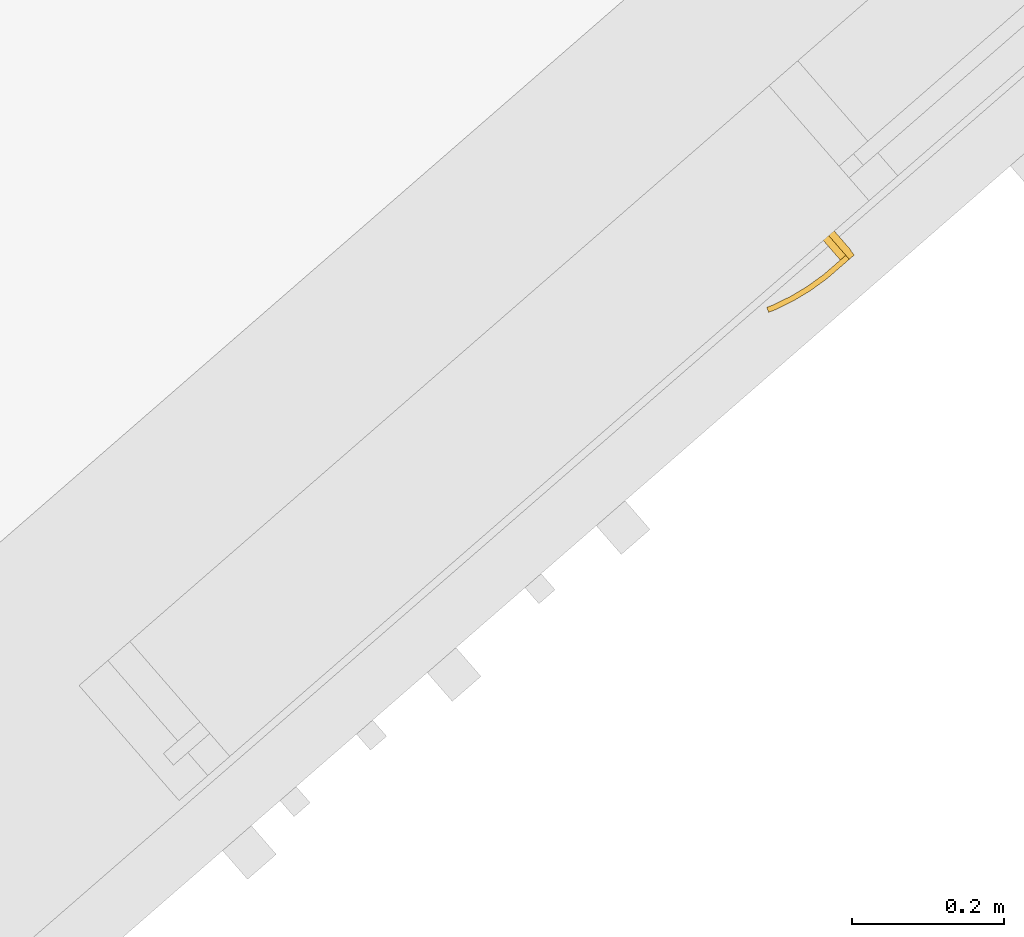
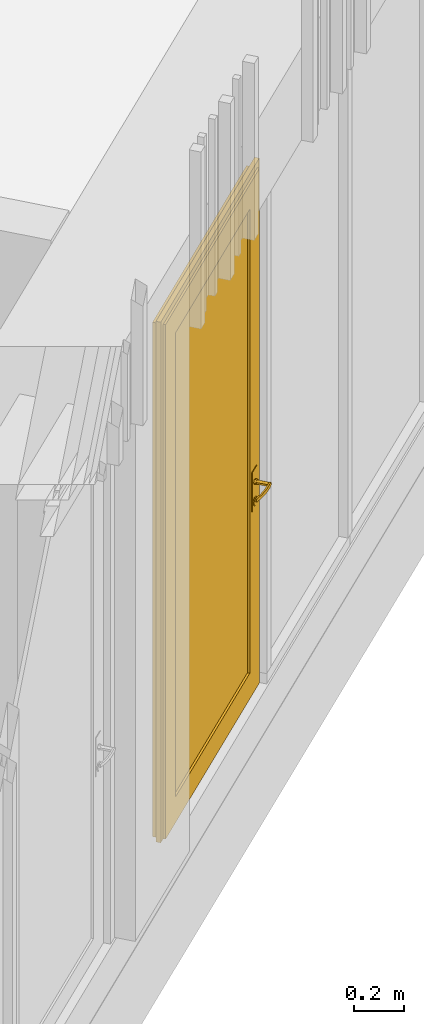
# One storey, part 109 of 124: 1 door, 1 element without a shape of its own.
"""IFC2X3 building model written with IfcOpenShell, lengths in millimetres."""

import ifcopenshell
import ifcopenshell.guid

model = None  # the IFC model being written
_history = None  # IfcOwnerHistory: only IFC2X3 demands one
_inside = {}  # id of a spatial element -> (the spatial element, [elements in it])
_under = {}  # id of a project, library or spatial element -> (it, [spatial elements below it])
_declared = {}  # id of a project -> (the project, [libraries it declares])
_typed = {}  # id of a type object -> (the type object, [elements of that type])
_made_of = {}  # id of a material, layer set ... -> (it, [elements and type objects made of it])


def new_model(schema):
    """Start an empty IFC model of exactly this schema.

    Asked for "IFC4X3", IfcOpenShell would pick the latest addendum, in which some entities
    have other attributes; the version numbers below select the first issue.
    IFC2X3 requires an IfcOwnerHistory on every rooted entity: one is made here for all.
    """
    global model, _history
    if schema == "IFC4X3":
        model = ifcopenshell.file(schema_version=(4, 3, 0, 0))
    else:
        model = ifcopenshell.file(schema=schema)
    _inside.clear()
    _under.clear()
    _declared.clear()
    _typed.clear()
    _made_of.clear()
    _history = None
    if model.schema == "IFC2X3":
        org = make("IfcOrganization", Name="unknown")
        user = make(
            "IfcPersonAndOrganization",
            ThePerson=make("IfcPerson", FamilyName="unknown"),
            TheOrganization=org,
        )
        app = make(
            "IfcApplication",
            ApplicationDeveloper=org,
            Version="unknown",
            ApplicationFullName="unknown",
            ApplicationIdentifier="unknown",
        )
        _history = make(
            "IfcOwnerHistory",
            OwningUser=user,
            OwningApplication=app,
            ChangeAction="ADDED",
            CreationDate=0,
        )
    return model


def make(cls, **values):
    """One entity of the class cls with the attributes given. An attribute that is None is left unset."""
    return model.create_entity(
        cls, **{name: value for name, value in values.items() if value is not None}
    )


def entity(cls, *values):
    """Any entity or typed value of the class cls, its attributes in the order of the schema. None: left unset."""
    e = model.create_entity(cls)
    for i, value in enumerate(values):
        if value is not None:
            e[i] = value
    return e


def rooted(cls, **values):
    """An entity with a GlobalId (a new one), such as an element, a storey or a relation."""
    return make(cls, GlobalId=ifcopenshell.guid.new(), OwnerHistory=_history, **values)


def si_unit(unit_type, name, prefix=None):
    """IfcSIUnit, for example si_unit("LENGTHUNIT", "METRE", prefix="MILLI")."""
    return make("IfcSIUnit", UnitType=unit_type, Prefix=prefix, Name=name)


def converted_unit(unit_type, name, factor, base, dimensions=None, offset=None):
    """IfcConversionBasedUnit, such as the inch: factor (a typed value) times the base unit."""
    return make(
        "IfcConversionBasedUnit"
        if offset is None
        else "IfcConversionBasedUnitWithOffset",
        ConversionOffset=offset,
        Dimensions=None
        if dimensions is None
        else entity("IfcDimensionalExponents", *dimensions),
        UnitType=unit_type,
        Name=name,
        ConversionFactor=make(
            "IfcMeasureWithUnit", ValueComponent=factor, UnitComponent=base
        ),
    )


def derived_unit(unit_type, elements):
    """IfcDerivedUnit: a product of units, each with its exponent."""
    return make(
        "IfcDerivedUnit",
        Elements=[
            make("IfcDerivedUnitElement", Unit=unit, Exponent=power)
            for unit, power in elements
        ],
        UnitType=unit_type,
    )


def money_unit(currency):
    """IfcMonetaryUnit."""
    return make("IfcMonetaryUnit", Currency=currency)


def assignment(units):
    """IfcUnitAssignment: the units of a project."""
    return None if units is None else make("IfcUnitAssignment", Units=units)


def point(xyz):
    """IfcCartesianPoint."""
    return None if xyz is None else make("IfcCartesianPoint", Coordinates=xyz)


def direction(xyz):
    """IfcDirection."""
    return None if xyz is None else make("IfcDirection", DirectionRatios=xyz)


def frame(location, z_axis=None, x_axis=None):
    """IfcAxis2Placement3D, a coordinate frame: its origin and axes. An axis left out is left unset."""
    return make(
        "IfcAxis2Placement3D",
        Location=point(location),
        Axis=direction(z_axis),
        RefDirection=direction(x_axis),
    )


def origin_with_axes():
    """The frame at (0, 0, 0) with the z axis (0, 0, 1) and the x axis (1, 0, 0) written out."""
    return frame((0.0, 0.0, 0.0), z_axis=(0.0, 0.0, 1.0), x_axis=(1.0, 0.0, 0.0))


def place(relative_to, where):
    """IfcLocalPlacement: puts the frame where relative to a parent placement (None: the world)."""
    return make(
        "IfcLocalPlacement", PlacementRelTo=relative_to, RelativePlacement=where
    )


def context(
    kind, dimensions, precision=None, world=None, true_north=None, identifier=None
):
    """IfcGeometricRepresentationContext, for example the 3D "Model" context."""
    return make(
        "IfcGeometricRepresentationContext",
        ContextIdentifier=identifier,
        ContextType=kind,
        CoordinateSpaceDimension=dimensions,
        Precision=precision,
        WorldCoordinateSystem=world,
        TrueNorth=true_north,
    )


def subcontext(parent, identifier, kind, view, scale=None):
    """IfcGeometricRepresentationSubContext, for example "Body" below "Model"."""
    return make(
        "IfcGeometricRepresentationSubContext",
        ContextIdentifier=identifier,
        ContextType=kind,
        ParentContext=parent,
        TargetScale=scale,
        TargetView=view,
    )


def project(units=None, contexts=None):
    """IfcProject with its units and contexts."""
    return rooted(
        "IfcProject",
        Name="project",
        RepresentationContexts=contexts,
        UnitsInContext=assignment(units),
    )


def spatial(cls, under=None, at=None, **own):
    """A site, building, storey or space (cls), placed at a placement, below another one or the project."""
    s = rooted(cls, ObjectPlacement=at, **own)
    if under is not None:
        _under.setdefault(under.id(), (under, []))[1].append(s)
    return s


def faces_of(points, faces, orient=None, outer=None):
    """IfcFace entities. A face is a list of loops; a loop is a list of indices into points, from 0.

    orient and outer hold one flag for each loop. By default every Orientation is true, the
    first loop of a face is its IfcFaceOuterBound and the others are IfcFaceBound.
    """
    made = []
    for i, loops in enumerate(faces):
        bounds = []
        for j, loop in enumerate(loops):
            is_outer = j == 0 if outer is None else outer[i][j]
            bounds.append(
                make(
                    "IfcFaceOuterBound" if is_outer else "IfcFaceBound",
                    Bound=make("IfcPolyLoop", Polygon=[points[k] for k in loop]),
                    Orientation=True if orient is None else orient[i][j],
                )
            )
        made.append(make("IfcFace", Bounds=bounds))
    return made


def open_shell(faces, orient=None, outer=None):
    """The faces of one IfcOpenShell. surface_model builds it on its shared points."""
    return ("IfcOpenShell", faces, orient, outer)


def faceted_brep(points, faces, orient=None, outer=None, voids=None):
    """IfcFacetedBrep: a solid bounded by flat faces; with voids (closed shells), ...WithVoids."""
    shared = [point(p) for p in points]
    hull = make("IfcClosedShell", CfsFaces=faces_of(shared, faces, orient, outer))
    if voids is None:
        return make("IfcFacetedBrep", Outer=hull)
    return make(
        "IfcFacetedBrepWithVoids",
        Outer=hull,
        Voids=[
            make(cls, CfsFaces=faces_of(shared, fs, o, b)) for cls, fs, o, b in voids
        ],
    )


def surface_model(cls, points, shells):
    """IfcFaceBasedSurfaceModel or IfcShellBasedSurfaceModel (cls): surfaces that need not close."""
    shared = [point(p) for p in points]
    made = [make(c, CfsFaces=faces_of(shared, fs, o, b)) for c, fs, o, b in shells]
    if cls == "IfcFaceBasedSurfaceModel":
        return make(cls, FbsmFaces=made)
    return make(cls, SbsmBoundary=made)


def shape(context_of_items, identifier, shape_type, items):
    """IfcShapeRepresentation: the items that make up one representation, for example the "Body"."""
    return make(
        "IfcShapeRepresentation",
        ContextOfItems=context_of_items,
        RepresentationIdentifier=identifier,
        RepresentationType=shape_type,
        Items=items,
    )


def material(Name=None, Category=None):
    """IfcMaterial."""
    return make("IfcMaterial", Name=Name, Category=Category)


def material_list(materials):
    """IfcMaterialList."""
    return make("IfcMaterialList", Materials=materials)


def made_of(thing, what):
    """Note that an element or type object is made of a material, layer set ...; save() writes the relation."""
    if what is not None:
        _made_of.setdefault(what.id(), (what, []))[1].append(thing)
    return thing


def type_object(cls, material=None, **own):
    """A type object (cls), such as IfcWallType, which elements share."""
    return made_of(rooted(cls, **own), material)


def element(
    cls,
    number,
    at=None,
    inside=None,
    cuts=None,
    type_object=None,
    material=None,
    context=None,
    identifier="Body",
    shape_type=None,
    held_by="IfcProductDefinitionShape",
    body=None,
    shapes=None,
    **own,
):
    """One element of the class cls, such as IfcWall. Its Tag is "e" and its number.

    at: its placement. inside: the storey or other place that contains it. cuts: it is an
    opening in that element (IfcRelVoidsElement). A single representation is given by context,
    identifier, shape_type and body (its items); several are given by shapes. held_by: the class
    of the entity that holds the representations. save() writes the other relations.
    """
    e = rooted(cls, Tag="e%d" % number, ObjectPlacement=at, **own)
    if body is not None:
        shapes = [shape(context, identifier, shape_type, body)]
    if shapes is not None:
        e.Representation = make(held_by, Representations=shapes)
    if inside is not None:
        _inside.setdefault(inside.id(), (inside, []))[1].append(e)
    if cuts is not None:
        rooted(
            "IfcRelVoidsElement", RelatingBuildingElement=cuts, RelatedOpeningElement=e
        )
    if type_object is not None:
        _typed.setdefault(type_object.id(), (type_object, []))[1].append(e)
    return made_of(e, material)


def aggregate(whole, parts):
    """IfcRelAggregates: a whole, such as a stair, and the parts it consists of."""
    return rooted("IfcRelAggregates", RelatingObject=whole, RelatedObjects=parts)


def save(model, path):
    """Write the relations noted so far, then the file.

    IfcRelAggregates (storeys below a building ...), IfcRelContainedInSpatialStructure (elements
    in a storey), IfcRelDefinesByType, IfcRelAssociatesMaterial and IfcRelDeclares: one each for
    every whole, place, type object, material and project.
    """
    for whole, parts in _under.values():
        aggregate(whole, parts)
    for where, things in _inside.values():
        rooted(
            "IfcRelContainedInSpatialStructure",
            RelatedElements=things,
            RelatingStructure=where,
        )
    for kind, things in _typed.values():
        rooted("IfcRelDefinesByType", RelatedObjects=things, RelatingType=kind)
    for what, things in _made_of.values():
        rooted("IfcRelAssociatesMaterial", RelatedObjects=things, RelatingMaterial=what)
    for by, libraries in _declared.values():
        rooted("IfcRelDeclares", RelatingContext=by, RelatedDefinitions=libraries)
    model.write(path)


model = new_model("IFC2X3")

# Units and contexts
model_context = context("Model", 3, precision=1e-05, world=origin_with_axes(), true_north=direction((0.0, 1.0)))
body_context = subcontext(model_context, "Body", "Model", "MODEL_VIEW")
ifc_project = project(units=[si_unit("LENGTHUNIT", "METRE", prefix="MILLI"), si_unit("AREAUNIT", "SQUARE_METRE"), si_unit("VOLUMEUNIT", "CUBIC_METRE"), converted_unit("PLANEANGLEUNIT", "DEGREE", entity("IfcPlaneAngleMeasure", 0.0174532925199), si_unit("PLANEANGLEUNIT", "RADIAN"), dimensions=[0, 0, 0, 0, 0, 0, 0]), si_unit("SOLIDANGLEUNIT", "STERADIAN"), money_unit("EUR"), converted_unit("TIMEUNIT", "Year", entity("IfcTimeMeasure", 31556926.0), si_unit("TIMEUNIT", "SECOND"), dimensions=[0, 0, 1, 0, 0, 0, 0]), si_unit("MASSUNIT", "GRAM", prefix="KILO"), si_unit("THERMODYNAMICTEMPERATUREUNIT", "DEGREE_CELSIUS"), si_unit("LUMINOUSINTENSITYUNIT", "LUMEN"), si_unit("ENERGYUNIT", "JOULE", prefix="MEGA"), derived_unit("THERMALCONDUCTANCEUNIT", [(si_unit("POWERUNIT", "WATT"), 1), (si_unit("LENGTHUNIT", "METRE"), -1), (si_unit("THERMODYNAMICTEMPERATUREUNIT", "KELVIN"), -1)]), derived_unit("SPECIFICHEATCAPACITYUNIT", [(si_unit("ENERGYUNIT", "JOULE"), 1), (si_unit("MASSUNIT", "GRAM", prefix="KILO"), -1), (si_unit("THERMODYNAMICTEMPERATUREUNIT", "KELVIN"), -1)]), derived_unit("MASSDENSITYUNIT", [(si_unit("MASSUNIT", "GRAM", prefix="KILO"), 1), (si_unit("VOLUMEUNIT", "CUBIC_METRE"), -1)])], contexts=[model_context])

# Site, building, storey
site_placement = place(None, origin_with_axes())
site = spatial("IfcSite", under=ifc_project, at=site_placement, Name="Site", CompositionType="ELEMENT")
building_placement = place(site_placement, origin_with_axes())
building = spatial("IfcBuilding", under=site, at=building_placement, Name="Building", CompositionType="ELEMENT")
storey_placement = place(building_placement, frame((0.0, 0.0, -1615.0), z_axis=(0.0, 0.0, 1.0), x_axis=(1.0, 0.0, 0.0)))
storey = spatial("IfcBuildingStorey", under=building, at=storey_placement, Name="0  korrus", CompositionType="ELEMENT", Elevation=-1615.0)

# Curtain wall, door
curtain_wall_type = type_object("IfcCurtainWallType", Name="KLF-04", PredefinedType="NOTDEFINED")
curtain_wall_placement = place(storey_placement, frame((162346.343492, 85970.7645105, 0.0), z_axis=(0.0, 0.0, 1.0), x_axis=(1.0, 0.0, 0.0)))
curtain_wall = element("IfcCurtainWall", 1, at=curtain_wall_placement, inside=storey, type_object=curtain_wall_type, Name="Klaasfassaad")
ifc_material_1 = material(Name="Aluminium MUST")
ifc_material_2 = material(Name="Teras - Roostevaba")
ifc_material_3 = material(Name="Klaas")
ifc_material_list = material_list([ifc_material_1, ifc_material_1, ifc_material_1, ifc_material_1, ifc_material_1, ifc_material_1, ifc_material_2, ifc_material_1, ifc_material_1, ifc_material_1, ifc_material_1, ifc_material_1, ifc_material_1, ifc_material_1, ifc_material_3, ifc_material_1, ifc_material_1, ifc_material_1, ifc_material_1, ifc_material_1, ifc_material_1, ifc_material_1, ifc_material_1, ifc_material_1, ifc_material_1, ifc_material_1, ifc_material_1, ifc_material_1, ifc_material_1])
door_style = type_object("IfcDoorStyle", Name="1205 x 2510 x 20", ConstructionType="NOTDEFINED", OperationType="NOTDEFINED", ParameterTakesPrecedence=False, Sizeable=False)
door_placement = place(curtain_wall_placement, frame((-3907.40212276, -3396.62807655, 1020.00000453), z_axis=(0.0, 0.0, 1.0), x_axis=(-0.754711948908, -0.65605630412, 0.0)))
door = element("IfcDoor", 2, at=door_placement, type_object=door_style, material=ifc_material_list, Name="Klaasfassaadi integreeritud välisuks * CW Door 22", context=body_context, shape_type="SurfaceModel", body=[
    faceted_brep([(-692.342347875, -35.0, -1020.00000453), (-692.342347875, -35.0, 1479.99999987), (-692.342347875, -30.0, 1479.99999987), (-692.342347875, -30.0, -1020.00000453), (-647.342347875, -35.0, -1020.00000453), (-647.342347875, -35.0, 1434.99999987), (-647.342347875, -30.0, 1434.99999987), (-647.342347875, -30.0, -1020.00000453)], [[[0, 1, 2, 3]], [[0, 4, 5, 1]], [[1, 5, 6, 2]], [[3, 2, 6, 7]], [[4, 0, 3, 7]], [[5, 4, 7, 6]]]),
    faceted_brep([(457.657659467, -35.0, 1479.99999987), (412.657659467, -35.0, 1434.99999987), (412.657659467, -30.0, 1434.99999987), (457.657659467, -30.0, 1479.99999987), (-692.342347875, -35.0, 1479.99999987), (-647.342347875, -35.0, 1434.99999987), (-647.342347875, -30.0, 1434.99999987), (-692.342347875, -30.0, 1479.99999987)], [[[0, 1, 2, 3]], [[0, 4, 5, 1]], [[1, 5, 6, 2]], [[3, 2, 6, 7]], [[4, 0, 3, 7]], [[5, 4, 7, 6]]]),
    faceted_brep([(457.657659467, -35.0, -1020.00000453), (412.657659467, -35.0, -1020.00000453), (412.657659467, -30.0, -1020.00000453), (457.657659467, -30.0, -1020.00000453), (457.657659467, -35.0, 1479.99999987), (412.657659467, -35.0, 1434.99999987), (412.657659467, -30.0, 1434.99999987), (457.657659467, -30.0, 1479.99999987)], [[[0, 1, 2, 3]], [[0, 4, 5, 1]], [[1, 5, 6, 2]], [[3, 2, 6, 7]], [[4, 0, 3, 7]], [[5, 4, 7, 6]]]),
    faceted_brep([(-692.342347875, -30.0, -1020.00000453), (-692.342347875, -30.0, 1479.99999987), (-692.342347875, 20.0, 1479.99999987), (-692.342347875, 20.0, -1020.00000453), (-672.342347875, -30.0, -1020.00000453), (-672.342347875, -30.0, 1459.99999987), (-672.342347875, 20.0, 1459.99999987), (-672.342347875, 20.0, -1020.00000453)], [[[0, 1, 2, 3]], [[0, 4, 5, 1]], [[1, 5, 6, 2]], [[3, 2, 6, 7]], [[4, 0, 3, 7]], [[5, 4, 7, 6]]]),
    faceted_brep([(457.657659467, -30.0, 1479.99999987), (437.657659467, -30.0, 1459.99999987), (437.657659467, 20.0, 1459.99999987), (457.657659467, 20.0, 1479.99999987), (-692.342347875, -30.0, 1479.99999987), (-672.342347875, -30.0, 1459.99999987), (-672.342347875, 20.0, 1459.99999987), (-692.342347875, 20.0, 1479.99999987)], [[[0, 1, 2, 3]], [[0, 4, 5, 1]], [[1, 5, 6, 2]], [[3, 2, 6, 7]], [[4, 0, 3, 7]], [[5, 4, 7, 6]]]),
    faceted_brep([(457.657659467, -30.0, -1020.00000453), (437.657659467, -30.0, -1020.00000453), (437.657659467, 20.0, -1020.00000453), (457.657659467, 20.0, -1020.00000453), (457.657659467, -30.0, 1479.99999987), (437.657659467, -30.0, 1459.99999987), (437.657659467, 20.0, 1459.99999987), (457.657659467, 20.0, 1479.99999987)], [[[0, 1, 2, 3]], [[0, 4, 5, 1]], [[1, 5, 6, 2]], [[3, 2, 6, 7]], [[4, 0, 3, 7]], [[5, 4, 7, 6]]]),
    faceted_brep([(-672.342347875, -30.0, -1020.00000453), (-672.342347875, -30.0, -995.00000453), (-672.342347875, 20.0, -995.00000453), (-672.342347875, 20.0, -1020.00000453), (437.657659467, -30.0, -1020.00000453), (437.657659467, -30.0, -995.00000453), (437.657659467, 20.0, -995.00000453), (437.657659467, 20.0, -1020.00000453)], [[[0, 1, 2, 3]], [[0, 4, 5, 1]], [[1, 5, 6, 2]], [[3, 2, 6, 7]], [[4, 0, 3, 7]], [[5, 4, 7, 6]]]),
    faceted_brep([(-717.34233234, -10.0, -1020.00000453), (-717.34233234, -10.0, 1509.99998882), (-717.34233234, 9.99999999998, 1509.99998882), (-717.34233234, 9.99999999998, -1020.00000453), (-692.342347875, -10.0, -1020.00000453), (-692.342347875, -10.0, 1479.99999987), (-692.342347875, 9.99999999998, 1479.99999987), (-692.342347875, 9.99999999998, -1020.00000453)], [[[0, 1, 2, 3]], [[0, 4, 5, 1]], [[1, 5, 6, 2]], [[3, 2, 6, 7]], [[4, 0, 3, 7]], [[5, 4, 7, 6]]]),
    faceted_brep([(-717.34233234, -10.0, 1509.99998882), (487.657648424, -10.0, 1509.99998882), (487.657648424, 9.99999999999, 1509.99998882), (-717.34233234, 9.99999999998, 1509.99998882), (-692.342347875, -10.0, 1479.99999987), (457.657659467, -10.0, 1479.99999987), (457.657659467, 9.99999999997, 1479.99999987), (-692.342347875, 9.99999999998, 1479.99999987)], [[[0, 1, 2, 3]], [[0, 4, 5, 1]], [[1, 5, 6, 2]], [[3, 2, 6, 7]], [[4, 0, 3, 7]], [[5, 4, 7, 6]]]),
    faceted_brep([(487.657648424, -10.0, 1509.99998882), (487.657648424, -10.0, -1020.00000453), (487.657648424, 9.99999999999, -1020.00000453), (487.657648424, 9.99999999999, 1509.99998882), (457.657659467, -10.0, 1479.99999987), (457.657659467, -10.0, -1020.00000453), (457.657659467, 9.99999999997, -1020.00000453), (457.657659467, 9.99999999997, 1479.99999987)], [[[0, 1, 2, 3]], [[0, 4, 5, 1]], [[1, 5, 6, 2]], [[3, 2, 6, 7]], [[4, 0, 3, 7]], [[5, 4, 7, 6]]]),
    faceted_brep([(337.657659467, -30.0, -895.00000453), (337.657659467, -30.0, 1359.99999987), (337.657659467, 20.0, 1359.99999987), (337.657659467, 20.0, -895.00000453), (437.657659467, -30.0, -995.00000453), (437.657659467, -30.0, 1459.99999987), (437.657659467, 20.0, 1459.99999987), (437.657659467, 20.0, -995.00000453)], [[[0, 1, 2, 3]], [[0, 4, 5, 1]], [[1, 5, 6, 2]], [[3, 2, 6, 7]], [[4, 0, 3, 7]], [[5, 4, 7, 6]]]),
    faceted_brep([(-672.342347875, -30.0, -995.00000453), (-672.342347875, -30.0, 1459.99999987), (-672.342347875, 20.0, 1459.99999987), (-672.342347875, 20.0, -995.00000453), (-572.342347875, -30.0, -895.00000453), (-572.342347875, -30.0, 1359.99999987), (-572.342347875, 20.0, 1359.99999987), (-572.342347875, 20.0, -895.00000453)], [[[0, 1, 2, 3]], [[0, 4, 5, 1]], [[1, 5, 6, 2]], [[3, 2, 6, 7]], [[4, 0, 3, 7]], [[5, 4, 7, 6]]]),
    faceted_brep([(-672.342347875, -30.0, -995.00000453), (-572.342347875, -30.0, -895.00000453), (-572.342347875, 20.0, -895.00000453), (-672.342347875, 20.0, -995.00000453), (437.657659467, -30.0, -995.00000453), (337.657659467, -30.0, -895.00000453), (337.657659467, 20.0, -895.00000453), (437.657659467, 20.0, -995.00000453)], [[[0, 1, 2, 3]], [[0, 4, 5, 1]], [[1, 5, 6, 2]], [[3, 2, 6, 7]], [[4, 0, 3, 7]], [[5, 4, 7, 6]]]),
    faceted_brep([(437.657659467, -30.0, 1459.99999987), (337.657659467, -30.0, 1359.99999987), (337.657659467, 20.0, 1359.99999987), (437.657659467, 20.0, 1459.99999987), (-672.342347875, -30.0, 1459.99999987), (-572.342347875, -30.0, 1359.99999987), (-572.342347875, 20.0, 1359.99999987), (-672.342347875, 20.0, 1459.99999987)], [[[0, 1, 2, 3]], [[0, 4, 5, 1]], [[1, 5, 6, 2]], [[3, 2, 6, 7]], [[4, 0, 3, 7]], [[5, 4, 7, 6]]]),
    faceted_brep([(337.657659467, -6.00000000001, -895.00000453), (-572.342347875, -6.00000000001, -895.00000453), (-572.342347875, 9.99999999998, -895.00000453), (337.657659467, 9.99999999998, -895.00000453), (337.657659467, -6.00000000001, 1359.99999987), (-572.342347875, -6.00000000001, 1359.99999987), (-572.342347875, 9.99999999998, 1359.99999987), (337.657659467, 9.99999999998, 1359.99999987)], [[[0, 1, 2, 3]], [[0, 4, 5, 1]], [[1, 5, 6, 2]], [[3, 2, 6, 7]], [[4, 0, 3, 7]], [[5, 4, 7, 6]]]),
    faceted_brep([(-650.842347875, 20.0, 64.99999547), (-593.842347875, 20.0, 64.99999547), (-593.842347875, 23.0, 64.99999547), (-650.842347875, 23.0, 64.99999547), (-650.842347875, 20.0, -125.00000453), (-593.842347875, 20.0, -125.00000453), (-593.842347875, 23.0, -125.00000453), (-650.842347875, 23.0, -125.00000453)], [[[0, 1, 2, 3]], [[0, 4, 5, 1]], [[1, 5, 6, 2]], [[3, 2, 6, 7]], [[4, 0, 3, 7]], [[5, 4, 7, 6]]]),
    surface_model("IfcShellBasedSurfaceModel", [(-622.342347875, 84.0, -5.00000452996), (-631.002601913, 84.0, -4.52995685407e-06), (-631.002601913, 91.0, -4.52995685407e-06), (-622.342347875, 91.0, -5.00000452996), (-597.342347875, 84.0, -5.00000452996), (-597.342347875, 84.0, 14.99999547), (-622.342347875, 84.0, 14.99999547), (-631.002601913, 84.0, 9.99999547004), (-631.002601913, 91.0, 9.99999547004), (-622.342347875, 91.0, 14.99999547), (-597.342347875, 91.0, 14.99999547), (-597.342347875, 91.0, -5.00000452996)], [open_shell([[[0, 1, 2, 3]], [[0, 4, 5, 6, 7, 1]], [[1, 7, 8, 2]], [[3, 2, 8, 9, 10, 11]], [[4, 0, 3, 11]], [[6, 5, 10, 9]], [[7, 6, 9, 8]]])]),
    surface_model("IfcShellBasedSurfaceModel", [(-597.342347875, 84.0, 14.99999547), (-584.244065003, 84.0, 14.6072963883), (-583.938438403, 91.0, 14.6072963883), (-597.342347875, 84.0, -5.00000452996), (-584.244065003, 84.0, -4.60730544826), (-557.232631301, 88.6635446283, 13.8218982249), (-597.342347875, 91.0, 14.99999547), (-597.342347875, 91.0, -5.00000452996), (-558.147185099, 81.716818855, -3.82190728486), (-558.147185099, 81.716818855, 13.8218982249), (-557.232631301, 88.6635446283, -3.82190728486), (-583.938438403, 91.0, -4.60730544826), (-532.348604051, 77.1678329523, -3.03650912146), (-532.348604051, 77.1678329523, 13.0365000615), (-530.832083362, 84.0084157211, 13.0365000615), (-530.832083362, 84.0084157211, -3.03650912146), (-507.044664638, 70.3876628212, -2.25111095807), (-507.044664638, 70.3876628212, 12.2511018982), (-504.937718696, 77.0700416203, 12.2511018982), (-504.937718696, 77.0700416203, -2.25111095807), (-499.171789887, 67.5221707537, -2.00000452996), (-499.171789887, 67.5221707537, 11.99999547), (-496.881143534, 74.1376880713, 11.99999547), (-496.881143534, 74.1376880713, -2.00000452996)], [open_shell([[[0, 1, 2]], [[0, 3, 4, 1]], [[1, 5, 2]], [[0, 2, 6]], [[4, 3, 7]], [[1, 4, 8, 9]], [[1, 9, 5]], [[2, 5, 10, 11]], [[6, 2, 11, 7]], [[4, 7, 11]], [[8, 4, 11]], [[9, 8, 12, 13]], [[9, 14, 5]], [[5, 14, 15, 10]], [[8, 11, 10]], [[12, 8, 10]], [[13, 12, 16, 17]], [[9, 13, 14]], [[14, 18, 19, 15]], [[12, 10, 15]], [[16, 12, 15]], [[17, 16, 20, 21]], [[13, 17, 18]], [[13, 18, 14]], [[18, 22, 23, 19]], [[16, 15, 19]], [[20, 16, 19]], [[21, 20, 23, 22]], [[17, 21, 22]], [[17, 22, 18]], [[20, 19, 23]]])]),
    faceted_brep([(-618.634143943, 33.0, -6.4126827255), (-610.342347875, 33.0, 4.99999547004), (-609.342347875, 23.0, 4.99999547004), (-618.325126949, 23.0, -7.36373924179), (-632.050551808, 33.0, -2.05342755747), (-632.050551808, 33.0, 12.0534184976), (-618.634143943, 33.0, 16.4126736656), (-618.325126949, 23.0, 17.3637301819), (-632.859568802, 23.0, 12.6412037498), (-632.859568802, 23.0, -2.64121280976)], [[[0, 1, 2, 3]], [[1, 0, 4, 5, 6]], [[1, 6, 7, 2]], [[2, 7, 8, 9, 3]], [[4, 0, 3, 9]], [[5, 4, 9, 8]], [[6, 5, 8, 7]]]),
    faceted_brep([(-616.162007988, 27.0, -109.021134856), (-602.342347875, 27.0, -90.00000453), (-600.342347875, 23.0, -90.00000453), (-615.543973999, 23.0, -110.923247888), (-638.522687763, 27.0, -101.755709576), (-638.522687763, 27.0, -78.2442994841), (-616.162007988, 27.0, -70.9788742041), (-615.543973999, 23.0, -69.0767611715), (-640.140721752, 23.0, -77.0687289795), (-640.140721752, 23.0, -102.93128008)], [[[0, 1, 2, 3]], [[1, 0, 4, 5, 6]], [[1, 6, 7, 2]], [[2, 7, 8, 9, 3]], [[4, 0, 3, 9]], [[5, 4, 9, 8]], [[6, 5, 8, 7]]]),
    faceted_brep([(-620.179228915, 29.0, -87.657400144), (-615.342347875, 29.0, -81.00000453), (-614.342347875, 27.0, -81.00000453), (-619.87021192, 27.0, -88.6084566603), (-628.005466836, 29.0, -85.114501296), (-628.005466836, 29.0, -76.8855077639), (-620.179228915, 29.0, -74.3426089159), (-619.87021192, 27.0, -73.3915523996), (-628.81448383, 27.0, -76.2977225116), (-628.81448383, 27.0, -85.7022865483)], [[[0, 1, 2, 3]], [[1, 0, 4, 5, 6]], [[1, 6, 7, 2]], [[2, 7, 8, 9, 3]], [[4, 0, 3, 9]], [[5, 4, 9, 8]], [[6, 5, 8, 7]]]),
    faceted_brep([(-622.342347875, 33.0, 14.99999547), (-612.831782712, 33.0, 8.09016541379), (-612.831782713, 84.0, 8.09016541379), (-622.342347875, 84.0, 14.99999547), (-631.852913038, 33.0, 8.09016541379), (-628.220200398, 33.0, -3.09017447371), (-616.464495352, 33.0, -3.09017447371), (-616.464495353, 84.0, -3.09017447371), (-628.220200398, 84.0, -3.09017447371), (-631.852913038, 84.0, 8.09016541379)], [[[0, 1, 2, 3]], [[0, 4, 5, 6, 1]], [[1, 6, 7, 2]], [[3, 2, 7, 8, 9]], [[4, 0, 3, 9]], [[5, 4, 9, 8]], [[6, 5, 8, 7]]]),
    faceted_brep([(-650.842347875, -30.0, 64.99999547), (-650.842347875, -33.0, 64.99999547), (-593.842347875, -33.0, 64.99999547), (-593.842347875, -30.0, 64.99999547), (-650.842347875, -30.0, -125.00000453), (-650.842347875, -33.0, -125.00000453), (-593.842347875, -33.0, -125.00000453), (-593.842347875, -30.0, -125.00000453)], [[[0, 1, 2, 3]], [[4, 5, 1, 0]], [[1, 5, 6, 2]], [[3, 2, 6, 7]], [[0, 3, 7, 4]], [[7, 6, 5, 4]]]),
    surface_model("IfcShellBasedSurfaceModel", [(-622.342347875, -94.0, -5.00000452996), (-622.342347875, -101.0, -5.00000452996), (-631.002601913, -101.0, -4.52995685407e-06), (-631.002601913, -94.0, -4.52995685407e-06), (-597.342347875, -94.0, -5.00000452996), (-597.342347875, -101.0, -5.00000452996), (-597.342347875, -101.0, 14.99999547), (-622.342347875, -101.0, 14.99999547), (-631.002601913, -101.0, 9.99999547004), (-631.002601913, -94.0, 9.99999547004), (-622.342347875, -94.0, 14.99999547), (-597.342347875, -94.0, 14.99999547)], [open_shell([[[0, 1, 2, 3]], [[4, 5, 1, 0]], [[1, 5, 6, 7, 8, 2]], [[3, 2, 8, 9]], [[0, 3, 9, 10, 11, 4]], [[10, 7, 6, 11]], [[9, 8, 7, 10]]])]),
    surface_model("IfcShellBasedSurfaceModel", [(-597.342347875, -94.0, 14.99999547), (-583.938438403, -101.0, 14.6072963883), (-584.244065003, -94.0, 14.6072963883), (-597.342347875, -101.0, 14.99999547), (-557.232631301, -98.6635446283, 13.8218982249), (-584.244065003, -94.0, -4.60730544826), (-597.342347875, -94.0, -5.00000452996), (-597.342347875, -101.0, -5.00000452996), (-583.938438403, -101.0, -4.60730544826), (-557.232631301, -98.6635446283, -3.82190728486), (-558.147185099, -91.7168188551, 13.8218982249), (-558.147185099, -91.7168188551, -3.82190728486), (-530.832083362, -94.0084157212, -3.03650912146), (-530.832083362, -94.0084157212, 13.0365000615), (-532.348604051, -87.1678329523, 13.0365000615), (-532.348604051, -87.1678329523, -3.03650912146), (-504.937718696, -87.0700416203, -2.25111095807), (-504.937718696, -87.0700416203, 12.2511018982), (-507.044664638, -80.3876628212, 12.2511018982), (-507.044664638, -80.3876628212, -2.25111095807), (-496.881143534, -84.1376880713, -2.00000452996), (-496.881143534, -84.1376880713, 11.99999547), (-499.171789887, -77.5221707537, 11.99999547), (-499.171789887, -77.5221707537, -2.00000452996)], [open_shell([[[0, 1, 2]], [[0, 3, 1]], [[2, 1, 4]], [[0, 2, 5, 6]], [[3, 7, 8, 1]], [[1, 8, 9, 4]], [[2, 4, 10]], [[2, 10, 11, 5]], [[5, 7, 6]], [[5, 8, 7]], [[11, 9, 8]], [[4, 9, 12, 13]], [[10, 4, 13]], [[10, 14, 15, 11]], [[11, 8, 5]], [[15, 9, 11]], [[15, 12, 9]], [[13, 12, 16, 17]], [[10, 13, 14]], [[14, 18, 19, 15]], [[19, 12, 15]], [[19, 16, 12]], [[17, 16, 20, 21]], [[14, 13, 17]], [[14, 17, 18]], [[18, 22, 23, 19]], [[23, 16, 19]], [[23, 20, 16]], [[22, 21, 20, 23]], [[18, 17, 21]], [[18, 21, 22]]])]),
    faceted_brep([(-618.634143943, -43.0, -6.4126827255), (-618.325126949, -33.0, -7.36373924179), (-609.342347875, -33.0, 4.99999547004), (-610.342347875, -43.0, 4.99999547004), (-632.050551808, -43.0, -2.05342755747), (-632.859568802, -33.0, -2.64121280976), (-632.859568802, -33.0, 12.6412037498), (-618.325126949, -33.0, 17.3637301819), (-618.634143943, -43.0, 16.4126736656), (-632.050551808, -43.0, 12.0534184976)], [[[0, 1, 2, 3]], [[4, 5, 1, 0]], [[2, 1, 5, 6, 7]], [[3, 2, 7, 8]], [[3, 8, 9, 4, 0]], [[9, 6, 5, 4]], [[8, 7, 6, 9]]]),
    faceted_brep([(-616.162007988, -37.0, -109.021134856), (-615.543973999, -33.0, -110.923247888), (-600.342347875, -33.0, -90.00000453), (-602.342347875, -37.0, -90.00000453), (-638.522687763, -37.0, -101.755709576), (-640.140721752, -33.0, -102.93128008), (-640.140721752, -33.0, -77.0687289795), (-615.543973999, -33.0, -69.0767611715), (-616.162007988, -37.0, -70.9788742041), (-638.522687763, -37.0, -78.2442994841)], [[[0, 1, 2, 3]], [[4, 5, 1, 0]], [[2, 1, 5, 6, 7]], [[3, 2, 7, 8]], [[3, 8, 9, 4, 0]], [[9, 6, 5, 4]], [[8, 7, 6, 9]]]),
    faceted_brep([(-620.179228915, -39.0, -87.657400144), (-619.87021192, -37.0, -88.6084566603), (-614.342347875, -37.0, -81.00000453), (-615.342347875, -39.0, -81.00000453), (-628.005466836, -39.0, -85.114501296), (-628.81448383, -37.0, -85.7022865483), (-628.81448383, -37.0, -76.2977225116), (-619.87021192, -37.0, -73.3915523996), (-620.179228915, -39.0, -74.3426089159), (-628.005466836, -39.0, -76.8855077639)], [[[0, 1, 2, 3]], [[4, 5, 1, 0]], [[2, 1, 5, 6, 7]], [[3, 2, 7, 8]], [[3, 8, 9, 4, 0]], [[9, 6, 5, 4]], [[8, 7, 6, 9]]]),
    faceted_brep([(-622.342347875, -43.0, 14.99999547), (-622.342347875, -94.0, 14.99999547), (-612.831782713, -94.0, 8.09016541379), (-612.831782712, -43.0, 8.09016541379), (-631.852913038, -43.0, 8.09016541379), (-631.852913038, -94.0, 8.09016541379), (-628.220200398, -94.0, -3.09017447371), (-616.464495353, -94.0, -3.09017447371), (-616.464495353, -43.0, -3.09017447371), (-628.220200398, -43.0, -3.09017447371)], [[[0, 1, 2, 3]], [[4, 5, 1, 0]], [[1, 5, 6, 7, 2]], [[3, 2, 7, 8]], [[0, 3, 8, 9, 4]], [[9, 6, 5, 4]], [[8, 7, 6, 9]]]),
])
aggregate(curtain_wall, [door])

save(model, "model.ifc")
